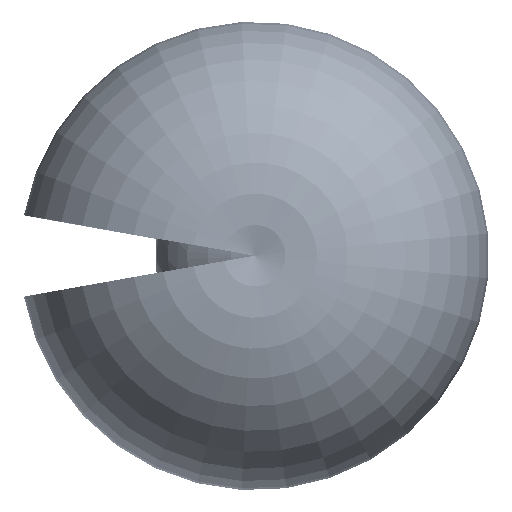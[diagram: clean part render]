
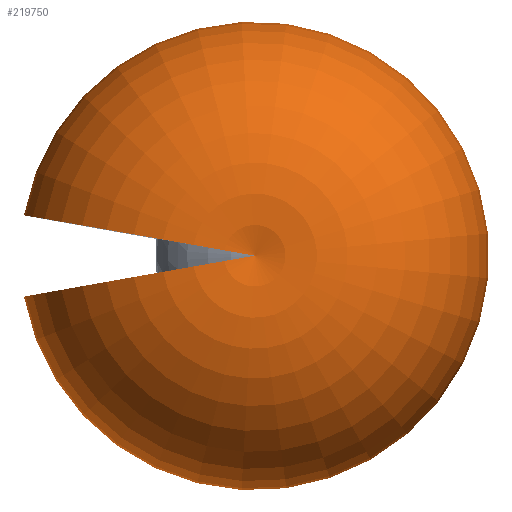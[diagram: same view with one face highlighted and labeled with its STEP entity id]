
A CAD part, top view. The second image highlights one B-rep face of the part: STEP entity #219750.
In plain terms, the highlighted toroidal (fillet/blend) face has major radius 690 mm and minor radius 2508.88 mm.
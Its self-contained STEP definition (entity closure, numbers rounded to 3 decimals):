
#11621 = CIRCLE ( 'NONE', #67440, 2508.884 ) ;
#17084 = CARTESIAN_POINT ( 'NONE',  ( 0., 0., 2942.136 ) ) ;
#34031 = ORIENTED_EDGE ( 'NONE', *, *, #313256, .T. ) ;
#67440 = AXIS2_PLACEMENT_3D ( 'NONE', #371040, #254339, #314454 ) ;
#68956 = DIRECTION ( 'NONE',  ( -1., 0., 0. ) ) ;
#79606 = VERTEX_POINT ( 'NONE', #17084 ) ;
#89251 = CARTESIAN_POINT ( 'NONE',  ( -679.517, -119.817, 530. ) ) ;
#92456 = VERTEX_POINT ( 'NONE', #111324 ) ;
#101922 = ORIENTED_EDGE ( 'NONE', *, *, #374753, .F. ) ;
#111324 = CARTESIAN_POINT ( 'NONE',  ( -1524.57, 268.823, -1827.58 ) ) ;
#122283 = DIRECTION ( 'NONE',  ( 0., 0., 1. ) ) ;
#151070 = CIRCLE ( 'NONE', #300056, 2508.884 ) ;
#152868 = CARTESIAN_POINT ( 'NONE',  ( 0., 0., 530. ) ) ;
#158560 = DIRECTION ( 'NONE',  ( -1., 0., 0. ) ) ;
#172592 = AXIS2_PLACEMENT_3D ( 'NONE', #216874, #308079, #68956 ) ;
#188891 = AXIS2_PLACEMENT_3D ( 'NONE', #152868, #246183, #158560 ) ;
#207880 = DIRECTION ( 'NONE',  ( 0.174, -0.985, 0. ) ) ;
#216874 = CARTESIAN_POINT ( 'NONE',  ( 0., 0., -1827.58 ) ) ;
#219750 = ADVANCED_FACE ( 'NONE', ( #361001 ), #288400, .T. ) ;
#225983 = EDGE_LOOP ( 'NONE', ( #349755, #101922, #34031 ) ) ;
#236380 = CARTESIAN_POINT ( 'NONE',  ( -1524.57, -268.823, -1827.58 ) ) ;
#246183 = DIRECTION ( 'NONE',  ( 0., 0., -1. ) ) ;
#254339 = DIRECTION ( 'NONE',  ( -0.174, -0.985, 0. ) ) ;
#288400 = TOROIDAL_SURFACE ( 'NONE', #188891, 690., 2508.884 ) ;
#300056 = AXIS2_PLACEMENT_3D ( 'NONE', #89251, #207880, #122283 ) ;
#308079 = DIRECTION ( 'NONE',  ( 0., 0., -1. ) ) ;
#313256 = EDGE_CURVE ( 'NONE', #79606, #368482, #151070, .T. ) ;
#314454 = DIRECTION ( 'NONE',  ( 0., 0., 1. ) ) ;
#340162 = CIRCLE ( 'NONE', #172592, 1548.089 ) ;
#341480 = EDGE_CURVE ( 'NONE', #92456, #368482, #340162, .T. ) ;
#349755 = ORIENTED_EDGE ( 'NONE', *, *, #341480, .F. ) ;
#361001 = FACE_OUTER_BOUND ( 'NONE', #225983, .T. ) ;
#368482 = VERTEX_POINT ( 'NONE', #236380 ) ;
#371040 = CARTESIAN_POINT ( 'NONE',  ( -679.517, 119.817, 530. ) ) ;
#374753 = EDGE_CURVE ( 'NONE', #79606, #92456, #11621, .T. ) ;
